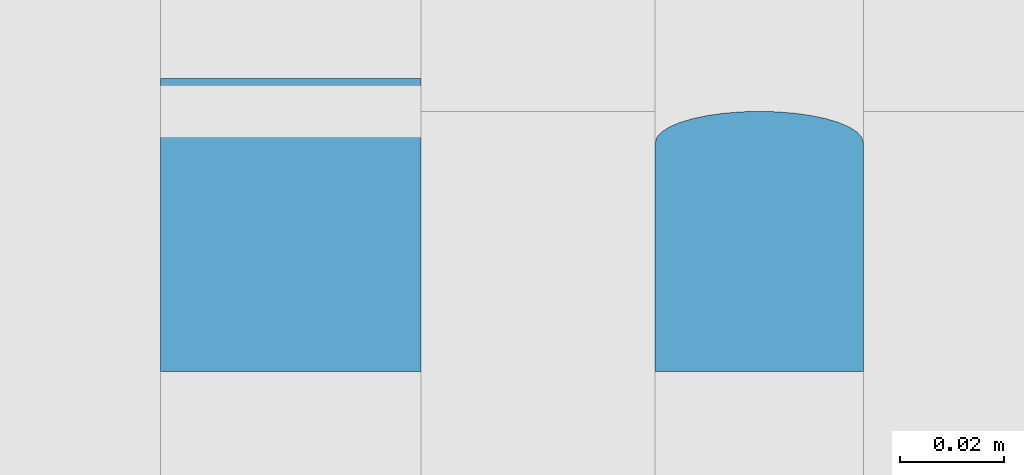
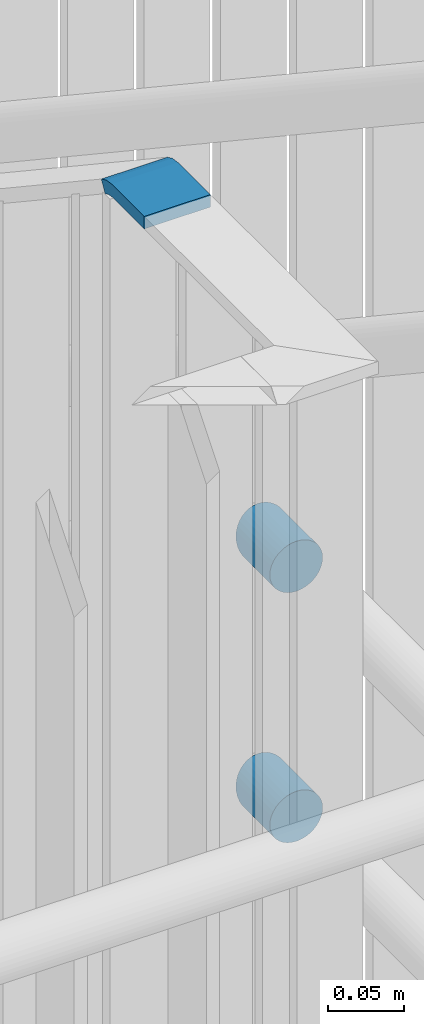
# One storey, part 84 of 418: 3 members, 1 element without a shape of its own.
"""IFC2X3 building model written with IfcOpenShell, lengths in millimetres."""

from ifc_helpers import new_model, entity, si_unit, converted_unit, derived_unit, money_unit, direction, frame, origin_with_axes, place, context, subcontext, project, spatial, faceted_brep, material, type_object, element, aggregate, save


model = new_model("IFC2X3")

# Units and contexts
model_context = context("Model", 3, precision=0.01, world=origin_with_axes(), true_north=direction((0.0, 1.0)))
body_context = subcontext(model_context, "Body", "Model", "MODEL_VIEW")
ifc_project = project(units=[si_unit("LENGTHUNIT", "METRE", prefix="MILLI"), si_unit("AREAUNIT", "SQUARE_METRE"), si_unit("VOLUMEUNIT", "CUBIC_METRE"), converted_unit("PLANEANGLEUNIT", "DEGREE", entity("IfcPlaneAngleMeasure", 0.0174532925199), si_unit("PLANEANGLEUNIT", "RADIAN"), dimensions=[0, 0, 0, 0, 0, 0, 0]), si_unit("SOLIDANGLEUNIT", "STERADIAN"), money_unit("EUR"), converted_unit("TIMEUNIT", "Year", entity("IfcTimeMeasure", 31556926.0), si_unit("TIMEUNIT", "SECOND"), dimensions=[0, 0, 1, 0, 0, 0, 0]), si_unit("MASSUNIT", "GRAM", prefix="KILO"), si_unit("THERMODYNAMICTEMPERATUREUNIT", "DEGREE_CELSIUS"), si_unit("LUMINOUSINTENSITYUNIT", "LUMEN"), si_unit("ENERGYUNIT", "JOULE", prefix="MEGA"), derived_unit("THERMALCONDUCTANCEUNIT", [(si_unit("POWERUNIT", "WATT"), 1), (si_unit("LENGTHUNIT", "METRE"), -1), (si_unit("THERMODYNAMICTEMPERATUREUNIT", "KELVIN"), -1)]), derived_unit("SPECIFICHEATCAPACITYUNIT", [(si_unit("ENERGYUNIT", "JOULE"), 1), (si_unit("MASSUNIT", "GRAM", prefix="KILO"), -1), (si_unit("THERMODYNAMICTEMPERATUREUNIT", "KELVIN"), -1)]), derived_unit("MASSDENSITYUNIT", [(si_unit("MASSUNIT", "GRAM", prefix="KILO"), 1), (si_unit("VOLUMEUNIT", "CUBIC_METRE"), -1)])], contexts=[model_context])

# Site, building, storey
site_placement = place(None, origin_with_axes())
site = spatial("IfcSite", under=ifc_project, at=site_placement, Name="Paldiski mnt 245/1, Tallinn, Harjumaa", CompositionType="COMPLEX")
building_placement = place(site_placement, origin_with_axes())
building = spatial("IfcBuilding", under=site, at=building_placement, Name="RKAS Hoone üldnimetus (kasutust iseloomustav) -> IFC Project Manager -> SOLIBRI", CompositionType="ELEMENT")
storey_placement = place(building_placement, origin_with_axes())
storey = spatial("IfcBuildingStorey", under=building, at=storey_placement, Name="Esimene korrus", CompositionType="ELEMENT", Elevation=0.0)

# Railing, members
railing_type = type_object("IfcRailingType", Name="Railing Type", PredefinedType="NOTDEFINED")
railing_placement = place(storey_placement, frame((-15438.0000282, 781.88210964, -670.434782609), z_axis=(0.0, 0.0, 1.0), x_axis=(-0.773149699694, -0.634223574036, 0.0)))
railing = element("IfcRailing", 1, at=railing_placement, inside=storey, type_object=railing_type, Name="Trepipiire", PredefinedType="NOTDEFINED")
ifc_material_1 = material(Name="ET-07_Teras - Roostevaba")
member_type = type_object("IfcMemberType", Name="IfcMember", PredefinedType="USERDEFINED")
member_1_placement = place(railing_placement, frame((0.0, 0.0, 0.0), z_axis=(0.0, 0.0, 1.0), x_axis=(-0.773149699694, 0.634223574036, 0.0)))
member_1 = element("IfcMember", 2, at=member_1_placement, type_object=member_type, material=ifc_material_1, ObjectType="Rail", context=body_context, shape_type="Brep", body=[
    faceted_brep([(45.3038449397, -4910.0, 4626.96181906), (44.9999999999, -4910.0, 4630.43478261), (44.9999999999, -4866.04333549, 4630.43478261), (45.3038449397, -4867.09274969, 4626.96181906), (45.3038449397, -4910.0, 4633.90774616), (46.2061475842, -4910.0, 4623.59437974), (47.6794919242, -4910.0, 4620.43478261), (49.6791111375, -4910.0, 4617.57903041), (52.1442478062, -4910.0, 4615.11389375), (54.9999999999, -4910.0, 4613.11427453), (58.1595971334, -4910.0, 4611.64093019), (61.5270364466, -4910.0, 4610.73862755), (64.9999999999, -4910.0, 4610.43478261), (68.4729635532, -4910.0, 4610.73862755), (71.8404028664, -4910.0, 4611.64093019), (74.9999999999, -4910.0, 4613.11427453), (77.8557521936, -4910.0, 4615.11389375), (80.3208888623, -4910.0, 4617.57903041), (82.3205080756, -4910.0, 4620.43478261), (83.7938524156, -4910.0, 4623.59437974), (84.6961550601, -4910.0, 4626.96181906), (84.9999999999, -4910.0, 4630.43478261), (84.6961550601, -4910.0, 4633.90774616), (83.7938524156, -4910.0, 4637.27518548), (82.3205080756, -4910.0, 4640.43478261), (80.3208888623, -4910.0, 4643.2905348), (77.8557521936, -4910.0, 4645.75567147), (74.9999999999, -4910.0, 4647.75529068), (71.8404028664, -4910.0, 4649.22863502), (68.4729635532, -4910.0, 4650.13093767), (64.9999999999, -4910.0, 4650.43478261), (61.5270364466, -4910.0, 4650.13093767), (58.1595971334, -4910.0, 4649.22863502), (54.9999999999, -4910.0, 4647.75529068), (52.1442478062, -4910.0, 4645.75567147), (49.6791111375, -4910.0, 4643.2905348), (47.6794919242, -4910.0, 4640.43478261), (46.2061475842, -4910.0, 4637.27518548), (45.3038449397, -4864.9939213, 4633.90774616), (82.3205080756, -4863.02166775, 4640.43478261), (83.7938524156, -4863.97639302, 4637.27518548), (84.6961550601, -4864.9939213, 4633.90774616), (84.9999999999, -4866.04333549, 4630.43478261), (84.6961550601, -4867.09274969, 4626.96181906), (83.7938524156, -4868.11027797, 4623.59437974), (82.3205080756, -4869.06500324, 4620.43478261), (80.3208888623, -4869.92791667, 4617.57903041), (77.8557521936, -4870.67279907, 4615.11389375), (74.9999999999, -4871.27701756, 4613.11427453), (71.8404028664, -4871.72221326, 4611.64093019), (68.4729635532, -4871.99485914, 4610.73862755), (64.9999999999, -4872.08667099, 4610.43478261), (61.5270364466, -4871.99485914, 4610.73862755), (58.1595971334, -4871.72221326, 4611.64093019), (54.9999999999, -4871.27701756, 4613.11427453), (52.1442478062, -4870.67279907, 4615.11389375), (49.6791111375, -4869.92791667, 4617.57903041), (47.6794919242, -4869.06500324, 4620.43478261), (46.2061475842, -4868.11027797, 4623.59437974), (46.2061475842, -4863.97639302, 4637.27518548), (47.6794919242, -4863.02166775, 4640.43478261), (49.6791111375, -4862.15875432, 4643.2905348), (52.1442478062, -4861.41387192, 4645.75567147), (54.9999999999, -4860.80965343, 4647.75529068), (58.1595971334, -4860.36445773, 4649.22863502), (61.5270364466, -4860.09181185, 4650.13093767), (64.9999999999, -4860.0, 4650.43478261), (68.4729635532, -4860.09181185, 4650.13093767), (71.8404028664, -4860.36445773, 4649.22863502), (74.9999999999, -4860.80965343, 4647.75529068), (77.8557521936, -4861.41387192, 4645.75567147), (80.3208888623, -4862.15875432, 4643.2905348)], [[[0, 1, 2, 3]], [[4, 1, 0, 5, 6, 7, 8, 9, 10, 11, 12, 13, 14, 15, 16, 17, 18, 19, 20, 21, 22, 23, 24, 25, 26, 27, 28, 29, 30, 31, 32, 33, 34, 35, 36, 37]], [[1, 4, 38, 2]], [[39, 40, 41, 42, 43, 44, 45, 46, 47, 48, 49, 50, 51, 52, 53, 54, 55, 56, 57, 58, 3, 2, 38, 59, 60, 61, 62, 63, 64, 65, 66, 67, 68, 69, 70, 71]], [[5, 0, 3, 58]], [[6, 5, 58, 57]], [[7, 6, 57, 56]], [[8, 7, 56, 55]], [[9, 8, 55, 54]], [[10, 9, 54, 53]], [[11, 10, 53, 52]], [[12, 11, 52, 51]], [[13, 12, 51, 50]], [[14, 13, 50, 49]], [[15, 14, 49, 48]], [[16, 15, 48, 47]], [[17, 16, 47, 46]], [[18, 17, 46, 45]], [[19, 18, 45, 44]], [[20, 19, 44, 43]], [[21, 20, 43, 42]], [[22, 21, 42, 41]], [[23, 22, 41, 40]], [[24, 23, 40, 39]], [[25, 24, 39, 71]], [[26, 25, 71, 70]], [[27, 26, 70, 69]], [[28, 27, 69, 68]], [[29, 28, 68, 67]], [[30, 29, 67, 66]], [[31, 30, 66, 65]], [[32, 31, 65, 64]], [[33, 32, 64, 63]], [[34, 33, 63, 62]], [[35, 34, 62, 61]], [[36, 35, 61, 60]], [[37, 36, 60, 59]], [[4, 37, 59, 38]]]),
])
member_2_placement = place(railing_placement, frame((0.0, 0.0, 0.0), z_axis=(0.0, 0.0, 1.0), x_axis=(-0.773149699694, 0.634223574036, 0.0)))
member_2 = element("IfcMember", 3, at=member_2_placement, type_object=member_type, material=ifc_material_1, ObjectType="Rail", context=body_context, shape_type="Brep", body=[
    faceted_brep([(45.3038449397, -4910.0, 4826.96181906), (44.9999999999, -4910.0, 4830.43478261), (44.9999999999, -4866.04333549, 4830.43478261), (45.3038449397, -4867.09274969, 4826.96181906), (45.3038449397, -4910.0, 4833.90774616), (46.2061475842, -4910.0, 4823.59437974), (47.6794919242, -4910.0, 4820.43478261), (49.6791111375, -4910.0, 4817.57903041), (52.1442478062, -4910.0, 4815.11389375), (54.9999999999, -4910.0, 4813.11427453), (58.1595971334, -4910.0, 4811.64093019), (61.5270364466, -4910.0, 4810.73862755), (64.9999999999, -4910.0, 4810.43478261), (68.4729635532, -4910.0, 4810.73862755), (71.8404028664, -4910.0, 4811.64093019), (74.9999999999, -4910.0, 4813.11427453), (77.8557521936, -4910.0, 4815.11389375), (80.3208888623, -4910.0, 4817.57903041), (82.3205080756, -4910.0, 4820.43478261), (83.7938524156, -4910.0, 4823.59437974), (84.6961550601, -4910.0, 4826.96181906), (84.9999999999, -4910.0, 4830.43478261), (84.6961550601, -4910.0, 4833.90774616), (83.7938524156, -4910.0, 4837.27518548), (82.3205080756, -4910.0, 4840.43478261), (80.3208888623, -4910.0, 4843.2905348), (77.8557521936, -4910.0, 4845.75567147), (74.9999999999, -4910.0, 4847.75529068), (71.8404028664, -4910.0, 4849.22863502), (68.4729635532, -4910.0, 4850.13093767), (64.9999999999, -4910.0, 4850.43478261), (61.5270364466, -4910.0, 4850.13093767), (58.1595971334, -4910.0, 4849.22863502), (54.9999999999, -4910.0, 4847.75529068), (52.1442478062, -4910.0, 4845.75567147), (49.6791111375, -4910.0, 4843.2905348), (47.6794919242, -4910.0, 4840.43478261), (46.2061475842, -4910.0, 4837.27518548), (45.3038449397, -4864.9939213, 4833.90774616), (82.3205080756, -4863.02166775, 4840.43478261), (83.7938524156, -4863.97639302, 4837.27518548), (84.6961550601, -4864.9939213, 4833.90774616), (84.9999999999, -4866.04333549, 4830.43478261), (84.6961550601, -4867.09274969, 4826.96181906), (83.7938524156, -4868.11027797, 4823.59437974), (82.3205080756, -4869.06500324, 4820.43478261), (80.3208888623, -4869.92791667, 4817.57903041), (77.8557521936, -4870.67279907, 4815.11389375), (74.9999999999, -4871.27701756, 4813.11427453), (71.8404028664, -4871.72221326, 4811.64093019), (68.4729635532, -4871.99485914, 4810.73862755), (64.9999999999, -4872.08667099, 4810.43478261), (61.5270364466, -4871.99485914, 4810.73862755), (58.1595971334, -4871.72221326, 4811.64093019), (54.9999999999, -4871.27701756, 4813.11427453), (52.1442478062, -4870.67279907, 4815.11389375), (49.6791111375, -4869.92791667, 4817.57903041), (47.6794919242, -4869.06500324, 4820.43478261), (46.2061475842, -4868.11027797, 4823.59437974), (46.2061475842, -4863.97639302, 4837.27518548), (47.6794919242, -4863.02166775, 4840.43478261), (49.6791111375, -4862.15875432, 4843.2905348), (52.1442478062, -4861.41387192, 4845.75567147), (54.9999999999, -4860.80965343, 4847.75529068), (58.1595971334, -4860.36445773, 4849.22863502), (61.5270364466, -4860.09181185, 4850.13093767), (64.9999999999, -4860.0, 4850.43478261), (68.4729635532, -4860.09181185, 4850.13093767), (71.8404028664, -4860.36445773, 4849.22863502), (74.9999999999, -4860.80965343, 4847.75529068), (77.8557521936, -4861.41387192, 4845.75567147), (80.3208888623, -4862.15875432, 4843.2905348)], [[[0, 1, 2, 3]], [[4, 1, 0, 5, 6, 7, 8, 9, 10, 11, 12, 13, 14, 15, 16, 17, 18, 19, 20, 21, 22, 23, 24, 25, 26, 27, 28, 29, 30, 31, 32, 33, 34, 35, 36, 37]], [[1, 4, 38, 2]], [[39, 40, 41, 42, 43, 44, 45, 46, 47, 48, 49, 50, 51, 52, 53, 54, 55, 56, 57, 58, 3, 2, 38, 59, 60, 61, 62, 63, 64, 65, 66, 67, 68, 69, 70, 71]], [[5, 0, 3, 58]], [[6, 5, 58, 57]], [[7, 6, 57, 56]], [[8, 7, 56, 55]], [[9, 8, 55, 54]], [[10, 9, 54, 53]], [[11, 10, 53, 52]], [[12, 11, 52, 51]], [[13, 12, 51, 50]], [[14, 13, 50, 49]], [[15, 14, 49, 48]], [[16, 15, 48, 47]], [[17, 16, 47, 46]], [[18, 17, 46, 45]], [[19, 18, 45, 44]], [[20, 19, 44, 43]], [[21, 20, 43, 42]], [[22, 21, 42, 41]], [[23, 22, 41, 40]], [[24, 23, 40, 39]], [[25, 24, 39, 71]], [[26, 25, 71, 70]], [[27, 26, 70, 69]], [[28, 27, 69, 68]], [[29, 28, 68, 67]], [[30, 29, 67, 66]], [[31, 30, 66, 65]], [[32, 31, 65, 64]], [[33, 32, 64, 63]], [[34, 33, 63, 62]], [[35, 34, 62, 61]], [[36, 35, 61, 60]], [[37, 36, 60, 59]], [[4, 37, 59, 38]]]),
])
ifc_material_2 = material(Name="RAL7016")
member_3_placement = place(railing_placement, frame((0.0, 0.0, 0.0), z_axis=(0.0, 0.0, 1.0), x_axis=(-0.773149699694, 0.634223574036, 0.0)))
member_3 = element("IfcMember", 4, at=member_3_placement, type_object=member_type, material=ifc_material_2, ObjectType="Rail", context=body_context, shape_type="Brep", body=[
    faceted_brep([(-50.0000000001, -4910.0, 5140.43478261), (-50.0000000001, -4910.0, 5150.43478261), (-50.0000000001, -4867.55416937, 5150.43478261), (-50.0000000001, -4860.32291409, 5149.36612079), (-50.0000000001, -4853.70988013, 5146.25149838), (-50.0000000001, -4858.63564469, 5137.51783008), (-50.0000000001, -4863.24683177, 5139.68961789), (-50.0000000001, -4868.28909694, 5140.43478261), (-1.01252339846e-10, -4910.0, 5150.43478261), (-1.01252339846e-10, -4910.0, 5140.43478261), (0.0, -4867.55416937, 5150.43478261), (0.0, -4860.32291409, 5149.36612079), (0.0, -4853.70988013, 5146.25149838), (0.0, -4858.63564469, 5137.51783008), (0.0, -4863.24683177, 5139.68961789), (0.0, -4868.28909694, 5140.43478261)], [[[0, 1, 2, 3, 4, 5, 6, 7]], [[8, 1, 0, 9]], [[1, 8, 10, 2]], [[3, 2, 10, 11]], [[4, 3, 11, 12]], [[12, 13, 5, 4]], [[13, 14, 6, 5]], [[14, 15, 7, 6]], [[9, 0, 7, 15]], [[8, 9, 15, 14, 13, 12, 11, 10]]]),
])
aggregate(railing, [member_1, member_2, member_3])

save(model, "model.ifc")
